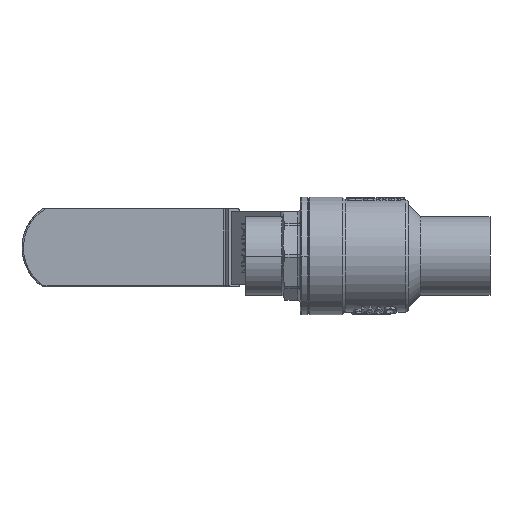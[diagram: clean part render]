
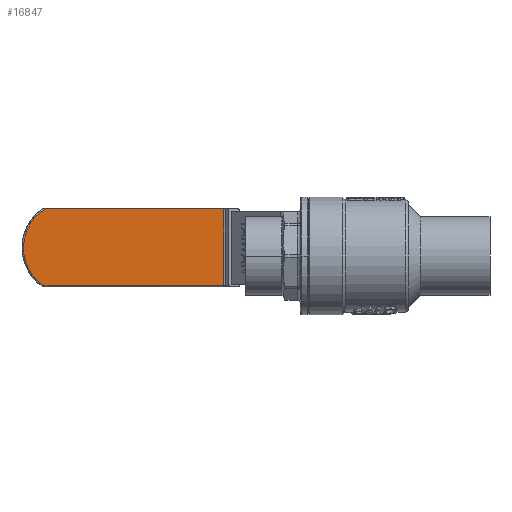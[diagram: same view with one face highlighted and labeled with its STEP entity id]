
A CAD part, front view. The second image highlights one B-rep face of the part: STEP entity #16847.
In plain terms, the highlighted planar face has unit normal (0, -1, 0).
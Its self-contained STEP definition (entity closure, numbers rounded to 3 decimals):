
#1320 = ORIENTED_EDGE ( 'NONE', *, *, #69661, .T. ) ;
#7520 = CARTESIAN_POINT ( 'NONE',  ( 49.6, 20.5, 12.65 ) ) ;
#8189 = VERTEX_POINT ( 'NONE', #58545 ) ;
#9395 = EDGE_CURVE ( 'NONE', #8189, #28744, #66138, .T. ) ;
#11721 = VERTEX_POINT ( 'NONE', #38129 ) ;
#13793 = DIRECTION ( 'NONE',  ( 0., -1., 0. ) ) ;
#14539 = CARTESIAN_POINT ( 'NONE',  ( 104.441, 20.5, 0. ) ) ;
#15165 = DIRECTION ( 'NONE',  ( -1., 0., 0. ) ) ;
#16171 = CARTESIAN_POINT ( 'NONE',  ( 50.456, 20.5, 13.15 ) ) ;
#16847 = ADVANCED_FACE ( 'NONE', ( #31314 ), #18980, .F. ) ;
#16968 = CARTESIAN_POINT ( 'NONE',  ( 49.6, 20.5, -13.65 ) ) ;
#17714 = CIRCLE ( 'NONE', #42917, 16.059 ) ;
#18980 = PLANE ( 'NONE',  #49659 ) ;
#22517 = DIRECTION ( 'NONE',  ( 0., 0., -1. ) ) ;
#28744 = VERTEX_POINT ( 'NONE', #61046 ) ;
#30701 = VECTOR ( 'NONE', #15165, 1000. ) ;
#31314 = FACE_OUTER_BOUND ( 'NONE', #36463, .T. ) ;
#31541 = ORIENTED_EDGE ( 'NONE', *, *, #64852, .T. ) ;
#33930 = VECTOR ( 'NONE', #34881, 1000. ) ;
#34881 = DIRECTION ( 'NONE',  ( 1., 0., 0. ) ) ;
#35813 = EDGE_CURVE ( 'NONE', #28744, #68653, #65268, .T. ) ;
#36463 = EDGE_LOOP ( 'NONE', ( #31541, #1320, #74389, #53352 ) ) ;
#38129 = CARTESIAN_POINT ( 'NONE',  ( 112.901, 20.5, -13.65 ) ) ;
#42917 = AXIS2_PLACEMENT_3D ( 'NONE', #14539, #13793, #49280 ) ;
#49280 = DIRECTION ( 'NONE',  ( 0., 0., 1. ) ) ;
#49659 = AXIS2_PLACEMENT_3D ( 'NONE', #7520, #53934, #59486 ) ;
#49860 = CARTESIAN_POINT ( 'NONE',  ( 50.456, 20.5, -13.65 ) ) ;
#53352 = ORIENTED_EDGE ( 'NONE', *, *, #35813, .T. ) ;
#53934 = DIRECTION ( 'NONE',  ( 0., 1., 0. ) ) ;
#58545 = CARTESIAN_POINT ( 'NONE',  ( 113.659, 20.5, 13.15 ) ) ;
#58902 = VECTOR ( 'NONE', #22517, 1000. ) ;
#59486 = DIRECTION ( 'NONE',  ( 0., 0., 1. ) ) ;
#61046 = CARTESIAN_POINT ( 'NONE',  ( 50.456, 20.5, 13.15 ) ) ;
#64852 = EDGE_CURVE ( 'NONE', #68653, #11721, #71158, .T. ) ;
#65268 = LINE ( 'NONE', #67402, #58902 ) ;
#66138 = LINE ( 'NONE', #16171, #30701 ) ;
#67402 = CARTESIAN_POINT ( 'NONE',  ( 50.456, 20.5, 12.65 ) ) ;
#68653 = VERTEX_POINT ( 'NONE', #49860 ) ;
#69661 = EDGE_CURVE ( 'NONE', #11721, #8189, #17714, .T. ) ;
#71158 = LINE ( 'NONE', #16968, #33930 ) ;
#74389 = ORIENTED_EDGE ( 'NONE', *, *, #9395, .T. ) ;
